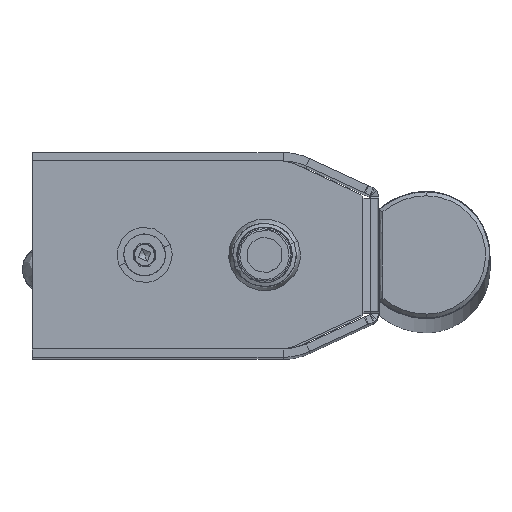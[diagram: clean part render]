
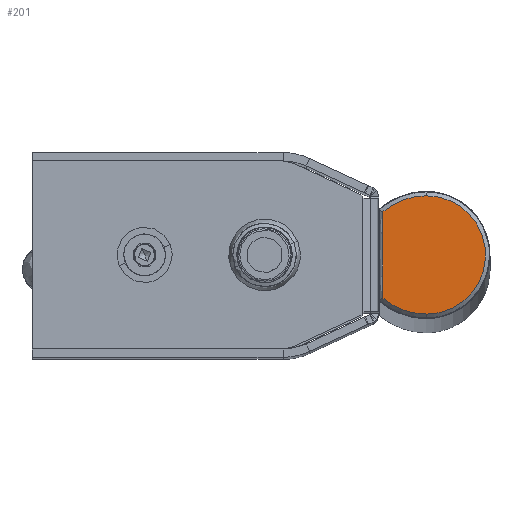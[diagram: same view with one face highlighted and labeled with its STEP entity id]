
A CAD part, top view. The second image highlights one B-rep face of the part: STEP entity #201.
In plain terms, the highlighted planar face has unit normal (0, 0, 1).
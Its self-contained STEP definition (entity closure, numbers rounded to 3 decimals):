
#201=ADVANCED_FACE('',(#529),#5099,.T.);
#529=FACE_OUTER_BOUND('',#857,.T.);
#857=EDGE_LOOP('',(#1545,#1546,#1547,#1548));
#1545=ORIENTED_EDGE('',*,*,#2956,.F.);
#1546=ORIENTED_EDGE('',*,*,#2957,.F.);
#1547=ORIENTED_EDGE('',*,*,#2959,.F.);
#1548=ORIENTED_EDGE('',*,*,#2961,.F.);
#2956=EDGE_CURVE('',#4520,#4518,#3678,.T.);
#2957=EDGE_CURVE('',#4521,#4520,#4139,.T.);
#2959=EDGE_CURVE('',#4519,#4521,#4141,.T.);
#2961=EDGE_CURVE('',#4518,#4519,#4143,.T.);
#3678=B_SPLINE_CURVE_WITH_KNOTS('',1,(#7615,#7616),.UNSPECIFIED.,.F.,.F.,
(2,2),(-15.643,0.),.UNSPECIFIED.);
#4139=(
BOUNDED_CURVE()
B_SPLINE_CURVE(2,(#7617,#7618,#7619),.UNSPECIFIED.,.F.,.F.)
B_SPLINE_CURVE_WITH_KNOTS((3,3),(0.,8.552),.UNSPECIFIED.)
CURVE()
GEOMETRIC_REPRESENTATION_ITEM()
RATIONAL_B_SPLINE_CURVE((1.,0.939,1.))
REPRESENTATION_ITEM('')
);
#4141=(
BOUNDED_CURVE()
B_SPLINE_CURVE(2,(#7623,#7624,#7625,#7626,#7627),.UNSPECIFIED.,.F.,.F.)
B_SPLINE_CURVE_WITH_KNOTS((3,2,3),(0.,16.805,33.611),
 .UNSPECIFIED.)
CURVE()
GEOMETRIC_REPRESENTATION_ITEM()
RATIONAL_B_SPLINE_CURVE((1.,0.707,1.,0.707,1.))
REPRESENTATION_ITEM('')
);
#4143=(
BOUNDED_CURVE()
B_SPLINE_CURVE(2,(#7631,#7632,#7633),.UNSPECIFIED.,.F.,.F.)
B_SPLINE_CURVE_WITH_KNOTS((3,3),(0.,8.552),.UNSPECIFIED.)
CURVE()
GEOMETRIC_REPRESENTATION_ITEM()
RATIONAL_B_SPLINE_CURVE((1.,0.939,1.))
REPRESENTATION_ITEM('')
);
#4518=VERTEX_POINT('',#7545);
#4519=VERTEX_POINT('',#7546);
#4520=VERTEX_POINT('',#7547);
#4521=VERTEX_POINT('',#7548);
#5099=PLANE('',#5242);
#5242=AXIS2_PLACEMENT_3D('',#7051,#5369,$);
#5369=DIRECTION('',(0.,0.,1.));
#7051=CARTESIAN_POINT('',(21.103,986.962,2068.5));
#7545=CARTESIAN_POINT('',(22.96,1007.622,2068.5));
#7546=CARTESIAN_POINT('',(30.829,1010.499,2068.5));
#7547=CARTESIAN_POINT('',(22.96,991.978,2068.5));
#7548=CARTESIAN_POINT('',(30.829,989.101,2068.5));
#7615=CARTESIAN_POINT('',(22.96,991.978,2068.5));
#7616=CARTESIAN_POINT('',(22.96,1007.622,2068.5));
#7617=CARTESIAN_POINT('',(30.829,989.101,2068.5));
#7618=CARTESIAN_POINT('',(26.369,989.101,2068.5));
#7619=CARTESIAN_POINT('',(22.96,991.978,2068.5));
#7623=CARTESIAN_POINT('',(30.829,1010.499,2068.5));
#7624=CARTESIAN_POINT('',(41.528,1010.499,2068.5));
#7625=CARTESIAN_POINT('',(41.528,999.8,2068.5));
#7626=CARTESIAN_POINT('',(41.528,989.101,2068.5));
#7627=CARTESIAN_POINT('',(30.829,989.101,2068.5));
#7631=CARTESIAN_POINT('',(22.96,1007.622,2068.5));
#7632=CARTESIAN_POINT('',(26.369,1010.499,2068.5));
#7633=CARTESIAN_POINT('',(30.829,1010.499,2068.5));
